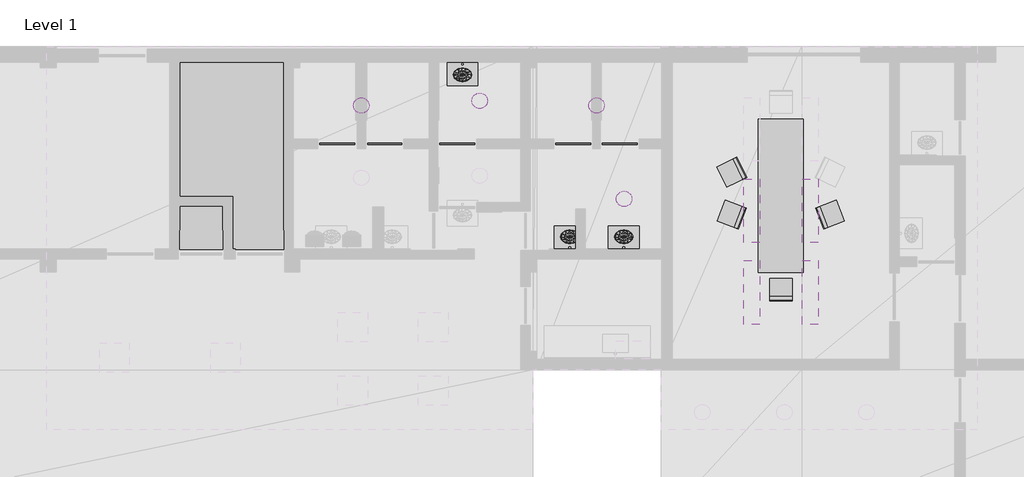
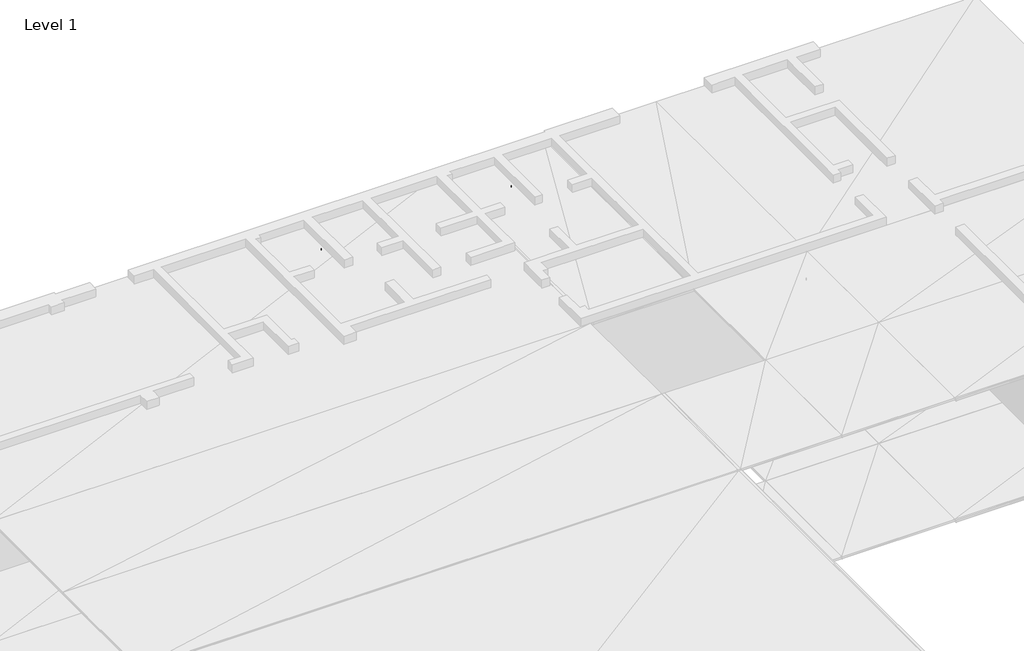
# One storey, part 13 of 14: 23 proxies.
"""IFC4 building model written with IfcOpenShell, lengths in millimetres."""

from ifc_helpers import new_model, si_unit, frame, origin, origin_with_axes, place, context, project, spatial, polyline, outline, extrude, faceted_brep, triangles, element, save

model = new_model("IFC4")

# Units and contexts
model_context = context("Model", 3, world=origin())
ifc_project = project(units=[si_unit("LENGTHUNIT", "METRE", prefix="MILLI")], contexts=[model_context])

# Site, building, storey
site = spatial("IfcSite", under=ifc_project)
building = spatial("IfcBuilding", under=site)
storey = spatial("IfcBuildingStorey", under=building, Name="Level 1", Elevation=0.0)

# Proxies
placement = place(None, origin())
element("IfcBuildingElementProxy", 1, Name="Generic Models", at=placement, inside=storey, context=model_context, shape_type="SweptSolid", body=[
    extrude(outline(polyline([(12247.01786, 20392.499924), (12247.01786, 20427.499771), (12905.017853, 20427.499771), (12905.017853, 20392.499924), (12247.01786, 20392.499924)])), origin_with_axes(), (0.0, 0.0, 1.0), 2099.999905),
])
element("IfcBuildingElementProxy", 2, Name="Generic Models", at=placement, inside=storey, context=model_context, shape_type="SweptSolid", body=[
    extrude(outline(polyline([(15095.017433, 20427.499771), (15095.017433, 20392.499924), (14437.017441, 20392.499924), (14437.017441, 20427.499771), (15095.017433, 20427.499771)])), origin_with_axes(), (0.0, 0.0, 1.0), 2099.999905),
])
element("IfcBuildingElementProxy", 3, Name="Generic Models", at=placement, inside=storey, context=model_context, shape_type="SweptSolid", body=[
    extrude(outline(polyline([(15317.017555, 20392.499924), (15317.017555, 20427.499771), (15975.017548, 20427.499771), (15975.017548, 20392.499924), (15317.017555, 20392.499924)])), origin_with_axes(), (0.0, 0.0, 1.0), 2099.999905),
])
element("IfcBuildingElementProxy", 4, Name="Generic Models", at=placement, inside=storey, context=model_context, shape_type="SweptSolid", body=[
    extrude(outline(polyline([(10645.017624, 20427.499771), (10645.017624, 20392.499924), (9987.017632, 20392.499924), (9987.017632, 20427.499771), (10645.017624, 20427.499771)])), origin_with_axes(), (0.0, 0.0, 1.0), 2099.999905),
])
element("IfcBuildingElementProxy", 5, Name="Generic Models", at=placement, inside=storey, context=model_context, shape_type="SweptSolid", body=[
    extrude(outline(polyline([(10886.417389, 20392.499924), (10886.417389, 20427.499771), (11525.617599, 20427.499771), (11525.617599, 20392.499924), (10886.417389, 20392.499924)])), origin_with_axes(), (0.0, 0.0, 1.0), 2099.999905),
])
element("IfcBuildingElementProxy", 6, Name="Generic Models", at=placement, inside=storey, context=model_context, shape_type="SweptSolid", body=[
    extrude(outline(polyline([(18286.018372, 18545.000076), (17986.019135, 18545.000076), (17986.019135, 19745.000839), (18286.018372, 19745.000839), (18286.018372, 18545.000076)])), frame((0.0, 0.0, 2910.000086), z_axis=(0.0, 0.0, 1.0), x_axis=(1.0, 0.0, 0.0)), (0.0, 0.0, 1.0), 39.999962),
])
element("IfcBuildingElementProxy", 7, Name="Generic Models", at=placement, inside=storey, context=model_context, shape_type="SweptSolid", body=[
    extrude(outline(polyline([(19387.996674, 18545.000076), (19087.997437, 18545.000076), (19087.997437, 19745.000839), (19387.996674, 19745.000839), (19387.996674, 18545.000076)])), frame((0.0, 0.0, 2910.000086), z_axis=(0.0, 0.0, 1.0), x_axis=(1.0, 0.0, 0.0)), (0.0, 0.0, 1.0), 39.999962),
])
element("IfcBuildingElementProxy", 8, Name="Generic Models", at=placement, inside=storey, context=model_context, shape_type="SweptSolid", body=[
    extrude(outline(polyline([(18286.018372, 17003.99971), (17986.019135, 17003.99971), (17986.019135, 18204.000473), (18286.018372, 18204.000473), (18286.018372, 17003.99971)])), frame((0.0, 0.0, 2910.000086), z_axis=(0.0, 0.0, 1.0), x_axis=(1.0, 0.0, 0.0)), (0.0, 0.0, 1.0), 39.999962),
])
element("IfcBuildingElementProxy", 9, Name="Generic Models", at=placement, inside=storey, context=model_context, shape_type="SweptSolid", body=[
    extrude(outline(polyline([(19387.996674, 17003.99971), (19087.997437, 17003.99971), (19087.997437, 18204.000473), (19387.996674, 18204.000473), (19387.996674, 17003.99971)])), frame((0.0, 0.0, 2910.000086), z_axis=(0.0, 0.0, 1.0), x_axis=(1.0, 0.0, 0.0)), (0.0, 0.0, 1.0), 39.999962),
])
element("IfcBuildingElementProxy", 10, Name="Generic Models", at=placement, inside=storey, context=model_context, shape_type="SweptSolid", body=[
    extrude(outline(polyline([(15862.160683, 19313.60817), (15848.543167, 19288.131714), (15830.217361, 19265.802383), (15807.887077, 19247.47467), (15782.410622, 19233.858109), (15754.766464, 19225.471497), (15726.017952, 19222.640991), (15697.26944, 19225.471497), (15669.625282, 19233.858109), (15644.148827, 19247.47467), (15621.818542, 19265.802383), (15603.492737, 19288.131714), (15589.875221, 19313.60817), (15581.489563, 19341.251373), (15578.658104, 19370.000839), (15581.489563, 19398.750305), (15589.875221, 19426.393509), (15603.492737, 19451.869965), (15621.818542, 19474.199295), (15644.148827, 19492.527008), (15669.625282, 19506.14357), (15697.26944, 19514.530182), (15726.017952, 19517.360687), (15754.766464, 19514.530182), (15782.410622, 19506.14357), (15807.887077, 19492.527008), (15830.217361, 19474.199295), (15848.543167, 19451.869965), (15862.160683, 19426.393509), (15870.546341, 19398.750305), (15873.3778, 19370.000839), (15870.546341, 19341.251373), (15862.160683, 19313.60817)])), frame((0.0, 0.0, 2910.000086), z_axis=(0.0, 0.0, 1.0), x_axis=(1.0, 0.0, 0.0)), (0.0, 0.0, 1.0), 39.999962),
])
element("IfcBuildingElementProxy", 11, Name="Generic Models", at=placement, inside=storey, context=model_context, shape_type="SweptSolid", body=[
    extrude(outline(polyline([(15342.161179, 21078.607559), (15328.543663, 21053.131104), (15310.217857, 21030.801773), (15287.887573, 21012.47406), (15262.411118, 20998.857498), (15234.76696, 20990.470886), (15206.018448, 20987.640381), (15177.269936, 20990.470886), (15149.625778, 20998.857498), (15124.149323, 21012.47406), (15101.819038, 21030.801773), (15083.493233, 21053.131104), (15069.875717, 21078.607559), (15061.490059, 21106.250763), (15058.6586, 21135.000229), (15061.490059, 21163.749695), (15069.875717, 21191.392899), (15083.493233, 21216.869354), (15101.819038, 21239.198685), (15124.149323, 21257.526398), (15149.625778, 21271.14296), (15177.269936, 21279.529572), (15206.018448, 21282.360077), (15234.76696, 21279.529572), (15262.411118, 21271.14296), (15287.887573, 21257.526398), (15310.217857, 21239.198685), (15328.543663, 21216.869354), (15342.161179, 21191.392899), (15350.546837, 21163.749695), (15353.378296, 21135.000229), (15350.546837, 21106.250763), (15342.161179, 21078.607559)])), frame((0.0, 0.0, 2910.000086), z_axis=(0.0, 0.0, 1.0), x_axis=(1.0, 0.0, 0.0)), (0.0, 0.0, 1.0), 39.999962),
])
element("IfcBuildingElementProxy", 12, Name="Generic Models", at=placement, inside=storey, context=model_context, shape_type="SweptSolid", body=[
    extrude(outline(polyline([(13137.160301, 21168.607712), (13123.542786, 21143.131256), (13105.21698, 21120.801926), (13082.886696, 21102.474213), (13057.41024, 21088.857651), (13029.766083, 21080.471039), (13001.01757, 21077.640533), (12972.269058, 21080.471039), (12944.624901, 21088.857651), (12919.148445, 21102.474213), (12896.818161, 21120.801926), (12878.492355, 21143.131256), (12864.87484, 21168.607712), (12856.489182, 21196.250916), (12853.657722, 21225.000381), (12856.489182, 21253.749847), (12864.87484, 21281.393051), (12878.492355, 21306.869507), (12896.818161, 21329.198837), (12919.148445, 21347.52655), (12944.624901, 21361.143112), (12972.269058, 21369.529724), (13001.01757, 21372.360229), (13029.766083, 21369.529724), (13057.41024, 21361.143112), (13082.886696, 21347.52655), (13105.21698, 21329.198837), (13123.542786, 21306.869507), (13137.160301, 21281.393051), (13145.545959, 21253.749847), (13148.377419, 21225.000381), (13145.545959, 21196.250916), (13137.160301, 21168.607712)])), frame((0.0, 0.0, 2910.000086), z_axis=(0.0, 0.0, 1.0), x_axis=(1.0, 0.0, 0.0)), (0.0, 0.0, 1.0), 39.999962),
])
element("IfcBuildingElementProxy", 13, Name="Generic Models", at=placement, inside=storey, context=model_context, shape_type="SweptSolid", body=[
    extrude(outline(polyline([(10902.160645, 21078.607559), (10888.543129, 21053.131104), (10870.217323, 21030.801773), (10847.887039, 21012.47406), (10822.410583, 20998.857498), (10794.766426, 20990.470886), (10766.017914, 20987.640381), (10737.269402, 20990.470886), (10709.625244, 20998.857498), (10684.148788, 21012.47406), (10661.818504, 21030.801773), (10643.492699, 21053.131104), (10629.875183, 21078.607559), (10621.489525, 21106.250763), (10618.658066, 21135.000229), (10621.489525, 21163.749695), (10629.875183, 21191.392899), (10643.492699, 21216.869354), (10661.818504, 21239.198685), (10684.148788, 21257.526398), (10709.625244, 21271.14296), (10737.269402, 21279.529572), (10766.017914, 21282.360077), (10794.766426, 21279.529572), (10822.410583, 21271.14296), (10847.887039, 21257.526398), (10870.217323, 21239.198685), (10888.543129, 21216.869354), (10902.160645, 21191.392899), (10910.546303, 21163.749695), (10913.377762, 21135.000229), (10910.546303, 21106.250763), (10902.160645, 21078.607559)])), frame((0.0, 0.0, 2910.000086), z_axis=(0.0, 0.0, 1.0), x_axis=(1.0, 0.0, 0.0)), (0.0, 0.0, 1.0), 39.999962),
])
element("IfcBuildingElementProxy", 14, Name="Generic Models", at=placement, inside=storey, context=model_context, shape_type="SweptSolid", body=[
    extrude(outline(polyline([(17677.558899, 19271.942139), (17651.416779, 19281.970978), (17661.445618, 19308.113098), (17687.587738, 19298.084259), (17677.558899, 19271.942139)])), frame((0.0, 0.0, 50.000001), z_axis=(0.0, 0.0, 1.0), x_axis=(1.0, 0.0, 0.0)), (0.0, 0.0, 1.0), 389.999997),
    extrude(outline(polyline([(17976.329803, 19157.329559), (17950.187683, 19167.358398), (17960.216522, 19193.500519), (17986.358643, 19183.47168), (17976.329803, 19157.329559)])), frame((0.0, 0.0, 50.000001), z_axis=(0.0, 0.0, 1.0), x_axis=(1.0, 0.0, 0.0)), (0.0, 0.0, 1.0), 389.999997),
    extrude(outline(polyline([(17555.784225, 18954.498291), (17529.642105, 18964.52713), (17539.669037, 18990.66925), (17565.813065, 18980.640411), (17555.784225, 18954.498291)])), frame((0.0, 0.0, 50.000001), z_axis=(0.0, 0.0, 1.0), x_axis=(1.0, 0.0, 0.0)), (0.0, 0.0, 1.0), 389.999997),
    extrude(outline(polyline([(17854.55513, 18839.885712), (17828.411102, 18849.914551), (17838.439941, 18876.056671), (17864.582062, 18866.027832), (17854.55513, 18839.885712)])), frame((0.0, 0.0, 50.000001), z_axis=(0.0, 0.0, 1.0), x_axis=(1.0, 0.0, 0.0)), (0.0, 0.0, 1.0), 389.999997),
    extrude(outline(polyline([(17860.179901, 18809.88121), (17804.161072, 18831.3694), (17954.589844, 19223.506927), (18010.61058, 19202.01683), (17860.179901, 18809.88121)])), frame((0.0, 0.0, 460.000008), z_axis=(0.0, 0.0, 1.0), x_axis=(1.0, 0.0, 0.0)), (0.0, 0.0, 1.0), 400.000006),
    extrude(outline(polyline([(17878.852844, 18802.717209), (17486.717224, 18953.145981), (17637.145996, 19345.283508), (18029.283524, 19194.854736), (17878.852844, 18802.717209)])), frame((0.0, 0.0, 417.499989), z_axis=(0.0, 0.0, 1.0), x_axis=(1.0, 0.0, 0.0)), (0.0, 0.0, 1.0), 55.000007),
])
element("IfcBuildingElementProxy", 15, Name="Generic Models", at=placement, inside=storey, context=model_context, shape_type="SweptSolid", body=[
    extrude(outline(polyline([(17558.767319, 19954.189301), (17533.540726, 19942.037582), (17521.389008, 19967.264175), (17546.615601, 19979.413986), (17558.767319, 19954.189301)])), frame((0.0, 0.0, 50.000001), z_axis=(0.0, 0.0, 1.0), x_axis=(1.0, 0.0, 0.0)), (0.0, 0.0, 1.0), 389.999997),
    extrude(outline(polyline([(17847.064972, 20093.053818), (17821.840286, 20080.904007), (17809.688568, 20106.128693), (17834.915161, 20118.280411), (17847.064972, 20093.053818)])), frame((0.0, 0.0, 50.000001), z_axis=(0.0, 0.0, 1.0), x_axis=(1.0, 0.0, 0.0)), (0.0, 0.0, 1.0), 389.999997),
    extrude(outline(polyline([(17706.310272, 19647.871017), (17681.085587, 19635.719299), (17668.933868, 19660.945892), (17694.160461, 19673.09761), (17706.310272, 19647.871017)])), frame((0.0, 0.0, 50.000001), z_axis=(0.0, 0.0, 1.0), x_axis=(1.0, 0.0, 0.0)), (0.0, 0.0, 1.0), 389.999997),
    extrude(outline(polyline([(17994.609833, 19786.735535), (17969.38324, 19774.585724), (17957.233429, 19799.812317), (17982.460022, 19811.962128), (17994.609833, 19786.735535)])), frame((0.0, 0.0, 50.000001), z_axis=(0.0, 0.0, 1.0), x_axis=(1.0, 0.0, 0.0)), (0.0, 0.0, 1.0), 389.999997),
    extrude(outline(polyline([(18020.307541, 19770.254135), (17966.251373, 19744.216919), (17783.99086, 20122.610092), (17838.047028, 20148.647308), (18020.307541, 19770.254135)])), frame((0.0, 0.0, 460.000008), z_axis=(0.0, 0.0, 1.0), x_axis=(1.0, 0.0, 0.0)), (0.0, 0.0, 1.0), 400.000006),
    extrude(outline(polyline([(18038.326263, 19778.934479), (17659.934998, 19596.673965), (17477.672577, 19975.065231), (17856.06575, 20157.327652), (18038.326263, 19778.934479)])), frame((0.0, 0.0, 417.499989), z_axis=(0.0, 0.0, 1.0), x_axis=(1.0, 0.0, 0.0)), (0.0, 0.0, 1.0), 55.000007),
])
element("IfcBuildingElementProxy", 16, Name="Generic Models", at=placement, inside=storey, context=model_context, shape_type="SweptSolid", body=[
    extrude(outline(polyline([(19806.188583, 18980.644226), (19832.330704, 18990.673065), (19842.359543, 18964.530945), (19816.217422, 18954.502106), (19806.188583, 18980.644226)])), frame((0.0, 0.0, 50.000001), z_axis=(0.0, 0.0, 1.0), x_axis=(1.0, 0.0, 0.0)), (0.0, 0.0, 1.0), 389.999997),
    extrude(outline(polyline([(19507.419586, 18866.027832), (19533.561707, 18876.056671), (19543.590546, 18849.914551), (19517.448425, 18839.885712), (19507.419586, 18866.027832)])), frame((0.0, 0.0, 50.000001), z_axis=(0.0, 0.0, 1.0), x_axis=(1.0, 0.0, 0.0)), (0.0, 0.0, 1.0), 389.999997),
    extrude(outline(polyline([(19684.408188, 19298.086166), (19710.552216, 19308.115005), (19720.581055, 19281.972885), (19694.438934, 19271.944046), (19684.408188, 19298.086166)])), frame((0.0, 0.0, 50.000001), z_axis=(0.0, 0.0, 1.0), x_axis=(1.0, 0.0, 0.0)), (0.0, 0.0, 1.0), 389.999997),
    extrude(outline(polyline([(19385.639191, 19183.469772), (19411.781311, 19193.498611), (19421.81015, 19167.356491), (19395.66803, 19157.327652), (19385.639191, 19183.469772)])), frame((0.0, 0.0, 50.000001), z_axis=(0.0, 0.0, 1.0), x_axis=(1.0, 0.0, 0.0)), (0.0, 0.0, 1.0), 389.999997),
    extrude(outline(polyline([(19361.38916, 19202.013016), (19417.40799, 19223.50502), (19567.842484, 18831.3694), (19511.823654, 18809.879303), (19361.38916, 19202.013016)])), frame((0.0, 0.0, 460.000008), z_axis=(0.0, 0.0, 1.0), x_axis=(1.0, 0.0, 0.0)), (0.0, 0.0, 1.0), 400.000006),
    extrude(outline(polyline([(19342.716217, 19194.850922), (19734.84993, 19345.283508), (19885.284424, 18953.149796), (19493.148804, 18802.715302), (19342.716217, 19194.850922)])), frame((0.0, 0.0, 417.499989), z_axis=(0.0, 0.0, 1.0), x_axis=(1.0, 0.0, 0.0)), (0.0, 0.0, 1.0), 55.000007),
])
element("IfcBuildingElementProxy", 17, Name="Generic Models", at=placement, inside=storey, context=model_context, shape_type="SweptSolid", body=[
    extrude(outline(polyline([(18841.999054, 17801.000595), (18841.999054, 17829.00238), (18869.998932, 17829.00238), (18869.998932, 17801.002502), (18841.999054, 17801.000595)])), frame((0.0, 0.0, 50.000001), z_axis=(0.0, 0.0, 1.0), x_axis=(1.0, 0.0, 0.0)), (0.0, 0.0, 1.0), 389.999997),
    extrude(outline(polyline([(18842.000961, 17481.0009), (18842.000961, 17509.000778), (18870.000839, 17509.002686), (18870.000839, 17481.0009), (18842.000961, 17481.0009)])), frame((0.0, 0.0, 50.000001), z_axis=(0.0, 0.0, 1.0), x_axis=(1.0, 0.0, 0.0)), (0.0, 0.0, 1.0), 389.999997),
    extrude(outline(polyline([(18501.998901, 17800.998688), (18501.998901, 17828.998566), (18529.998779, 17828.998566), (18529.998779, 17800.998688), (18501.998901, 17800.998688)])), frame((0.0, 0.0, 50.000001), z_axis=(0.0, 0.0, 1.0), x_axis=(1.0, 0.0, 0.0)), (0.0, 0.0, 1.0), 389.999997),
    extrude(outline(polyline([(18502.000809, 17480.998993), (18502.000809, 17508.998871), (18530.000687, 17508.998871), (18530.002594, 17480.998993), (18502.000809, 17480.998993)])), frame((0.0, 0.0, 50.000001), z_axis=(0.0, 0.0, 1.0), x_axis=(1.0, 0.0, 0.0)), (0.0, 0.0, 1.0), 389.999997),
    extrude(outline(polyline([(18476.00174, 17464.998245), (18476.00174, 17524.997711), (18896.001816, 17525.001526), (18896.001816, 17465.00206), (18476.00174, 17464.998245)])), frame((0.0, 0.0, 460.000008), z_axis=(0.0, 0.0, 1.0), x_axis=(1.0, 0.0, 0.0)), (0.0, 0.0, 1.0), 400.000006),
    extrude(outline(polyline([(18476.00174, 17444.997787), (18475.997925, 17864.997864), (18895.998001, 17865.001678), (18896.001816, 17445.001602), (18476.00174, 17444.997787)])), frame((0.0, 0.0, 417.499989), z_axis=(0.0, 0.0, 1.0), x_axis=(1.0, 0.0, 0.0)), (0.0, 0.0, 1.0), 55.000007),
])
element("IfcBuildingElementProxy", 18, Name="Generic Models", at=placement, inside=storey, context=model_context, shape_type="SweptSolid", body=[
    extrude(outline(polyline([(18261.016846, 17979.999542), (18261.016846, 20880.001068), (19111.017227, 20880.001068), (19111.017227, 17979.999542), (18261.016846, 17979.999542)])), frame((0.0, 0.0, 709.999979), z_axis=(0.0, 0.0, 1.0), x_axis=(1.0, 0.0, 0.0)), (0.0, 0.0, 1.0), 40.000021),
])
element("IfcBuildingElementProxy", 19, Name="Generic Models", at=placement, inside=storey, context=model_context, shape_type="SweptSolid", body=[
    extrude(outline(polyline([(19058.517456, 18055.000305), (19013.51738, 18055.000305), (19013.51738, 20805.000305), (19058.517456, 20805.000305), (19058.517456, 18055.000305)])), frame((0.0, 0.0, 639.999986), z_axis=(0.0, 0.0, 1.0), x_axis=(1.0, 0.0, 0.0)), (0.0, 0.0, 1.0), 69.999993),
    extrude(outline(polyline([(18358.516693, 18055.000305), (18313.516617, 18055.000305), (18313.516617, 20805.000305), (18358.516693, 20805.000305), (18358.516693, 18055.000305)])), frame((0.0, 0.0, 639.999986), z_axis=(0.0, 0.0, 1.0), x_axis=(1.0, 0.0, 0.0)), (0.0, 0.0, 1.0), 69.999993),
    extrude(outline(polyline([(18336.017609, 20782.501221), (18336.017609, 20827.501297), (19036.018372, 20827.501297), (19036.018372, 20782.501221), (18336.017609, 20782.501221)])), frame((0.0, 0.0, 639.999986), z_axis=(0.0, 0.0, 1.0), x_axis=(1.0, 0.0, 0.0)), (0.0, 0.0, 1.0), 69.999993),
    extrude(outline(polyline([(18336.017609, 18032.501221), (18336.017609, 18077.501297), (19036.018372, 18077.501297), (19036.018372, 18032.501221), (18336.017609, 18032.501221)])), frame((0.0, 0.0, 639.999986), z_axis=(0.0, 0.0, 1.0), x_axis=(1.0, 0.0, 0.0)), (0.0, 0.0, 1.0), 69.999993),
    extrude(outline(polyline([(19011.016846, 20780.000687), (19011.016846, 20829.999924), (19061.01799, 20829.999924), (19061.01799, 20780.000687), (19011.016846, 20780.000687)])), frame((0.0, 0.0, 50.000001), z_axis=(0.0, 0.0, 1.0), x_axis=(1.0, 0.0, 0.0)), (0.0, 0.0, 1.0), 659.999978),
    extrude(outline(polyline([(19011.016846, 18030.000687), (19011.016846, 18079.999924), (19061.01799, 18079.999924), (19061.01799, 18030.000687), (19011.016846, 18030.000687)])), frame((0.0, 0.0, 50.000001), z_axis=(0.0, 0.0, 1.0), x_axis=(1.0, 0.0, 0.0)), (0.0, 0.0, 1.0), 659.999978),
    extrude(outline(polyline([(18311.01799, 20780.000687), (18311.01799, 20829.999924), (18361.017227, 20829.999924), (18361.017227, 20780.000687), (18311.01799, 20780.000687)])), frame((0.0, 0.0, 50.000001), z_axis=(0.0, 0.0, 1.0), x_axis=(1.0, 0.0, 0.0)), (0.0, 0.0, 1.0), 659.999978),
    extrude(outline(polyline([(18311.01799, 18030.000687), (18311.01799, 18079.999924), (18361.017227, 18079.999924), (18361.017227, 18030.000687), (18311.01799, 18030.000687)])), frame((0.0, 0.0, 50.000001), z_axis=(0.0, 0.0, 1.0), x_axis=(1.0, 0.0, 0.0)), (0.0, 0.0, 1.0), 659.999978),
])
element("IfcBuildingElementProxy", 20, Name="Generic Models", at=placement, inside=storey, context=model_context, shape_type="Brep", body=[
    faceted_brep([(12593.741417, 21750.0, 868.971169), (12581.01368, 21715.000153, 868.971169), (12676.013947, 21715.000153, 875.0), (12533.514023, 21775.621414, 852.500021), (12593.741417, 21819.999695, 852.500021), (12628.513336, 21775.621414, 868.971169), (12511.468887, 21715.000153, 852.500021), (12593.741417, 21680.000305, 868.971169), (12676.013947, 21784.999847, 868.971169), (12723.513603, 21775.621414, 868.971169), (12758.286476, 21750.0, 868.971169), (12771.01326, 21715.000153, 868.971169), (12758.286476, 21680.000305, 868.971169), (12723.513603, 21654.378891, 868.971169), (12676.013947, 21645.000458, 868.971169), (12628.513336, 21654.378891, 868.971169), (12511.468887, 21784.999847, 829.999983), (12581.01368, 21836.244583, 829.999983), (12676.013947, 21836.244583, 852.500021), (12676.013947, 21854.999542, 829.999983), (12486.013412, 21715.000153, 829.999983), (12533.514023, 21654.378891, 852.500021), (12758.286476, 21819.999695, 852.500021), (12818.51387, 21775.621414, 852.500021), (12840.559006, 21715.000153, 852.500021), (12818.51387, 21654.378891, 852.500021), (12758.286476, 21610.00061, 852.500021), (12676.013947, 21593.757629, 852.500021), (12593.741417, 21610.00061, 852.500021), (12533.514023, 21775.621414, 807.500005), (12593.741417, 21819.999695, 807.500005), (12676.013947, 21836.244583, 807.500005), (12771.01326, 21836.244583, 829.999983), (12758.286476, 21819.999695, 807.500005), (12511.468887, 21715.000153, 807.500005), (12511.468887, 21645.000458, 829.999983), (12840.559006, 21784.999847, 829.999983), (12866.013527, 21715.000153, 829.999983), (12840.559006, 21645.000458, 829.999983), (12771.01326, 21593.757629, 829.999983), (12676.013947, 21575.000763, 829.999983), (12581.01368, 21593.757629, 829.999983), (12593.741417, 21750.0, 791.028857), (12628.513336, 21775.621414, 791.028857), (12676.013947, 21784.999847, 791.028857), (12723.513603, 21775.621414, 791.028857), (12818.51387, 21775.621414, 807.500005), (12758.286476, 21750.0, 791.028857), (12581.01368, 21715.000153, 791.028857), (12533.514023, 21654.378891, 807.500005), (12840.559006, 21715.000153, 807.500005), (12818.51387, 21654.378891, 807.500005), (12758.286476, 21610.00061, 807.500005), (12676.013947, 21593.757629, 807.500005), (12593.741417, 21610.00061, 807.500005), (12676.013947, 21715.000153, 785.000026), (12771.01326, 21715.000153, 791.028857), (12593.741417, 21680.000305, 791.028857), (12758.286476, 21680.000305, 791.028857), (12723.513603, 21654.378891, 791.028857), (12676.013947, 21645.000458, 791.028857), (12628.513336, 21654.378891, 791.028857)], [[[0, 1, 2]], [[3, 1, 0]], [[4, 3, 0]], [[4, 0, 5]], [[5, 0, 2]], [[3, 6, 1]], [[6, 7, 1]], [[1, 7, 2]], [[8, 5, 2]], [[9, 8, 2]], [[10, 9, 2]], [[11, 10, 2]], [[12, 11, 2]], [[13, 12, 2]], [[14, 13, 2]], [[15, 14, 2]], [[7, 15, 2]], [[16, 6, 3]], [[17, 16, 3]], [[17, 3, 4]], [[18, 4, 5]], [[19, 17, 4]], [[19, 4, 18]], [[18, 5, 8]], [[16, 20, 6]], [[20, 21, 6]], [[6, 21, 7]], [[21, 15, 7]], [[22, 18, 8]], [[22, 8, 9]], [[23, 22, 9]], [[23, 9, 10]], [[24, 23, 10]], [[24, 10, 11]], [[25, 24, 11]], [[25, 11, 12]], [[26, 25, 12]], [[26, 12, 13]], [[27, 26, 13]], [[27, 13, 14]], [[28, 27, 14]], [[28, 14, 15]], [[21, 28, 15]], [[29, 20, 16]], [[30, 29, 16]], [[30, 16, 17]], [[31, 30, 17]], [[31, 17, 19]], [[32, 19, 18]], [[32, 18, 22]], [[33, 31, 19]], [[33, 19, 32]], [[29, 34, 20]], [[34, 35, 20]], [[20, 35, 21]], [[35, 28, 21]], [[36, 32, 22]], [[36, 22, 23]], [[37, 36, 23]], [[37, 23, 24]], [[38, 37, 24]], [[38, 24, 25]], [[39, 38, 25]], [[39, 25, 26]], [[40, 39, 26]], [[40, 26, 27]], [[41, 40, 27]], [[41, 27, 28]], [[35, 41, 28]], [[42, 34, 29]], [[43, 42, 29]], [[43, 29, 30]], [[44, 43, 30]], [[44, 30, 31]], [[45, 44, 31]], [[45, 31, 33]], [[46, 33, 32]], [[46, 32, 36]], [[47, 45, 33]], [[47, 33, 46]], [[42, 48, 34]], [[48, 49, 34]], [[34, 49, 35]], [[49, 41, 35]], [[50, 46, 36]], [[50, 36, 37]], [[51, 50, 37]], [[51, 37, 38]], [[52, 51, 38]], [[52, 38, 39]], [[53, 52, 39]], [[53, 39, 40]], [[54, 53, 40]], [[54, 40, 41]], [[49, 54, 41]], [[55, 48, 42]], [[55, 42, 43]], [[55, 43, 44]], [[55, 44, 45]], [[55, 45, 47]], [[56, 47, 46]], [[56, 46, 50]], [[55, 47, 56]], [[48, 57, 49]], [[55, 57, 48]], [[57, 54, 49]], [[58, 56, 50]], [[58, 50, 51]], [[59, 58, 51]], [[59, 51, 52]], [[60, 59, 52]], [[60, 52, 53]], [[61, 60, 53]], [[61, 53, 54]], [[57, 61, 54]], [[55, 56, 58]], [[55, 58, 59]], [[55, 59, 60]], [[55, 60, 61]], [[55, 61, 57]]]),
    faceted_brep([(12691.601753, 21929.000854, 1000.0), (12685.013771, 21935.588837, 1000.0), (12676.013947, 21937.999725, 1000.0), (12667.014122, 21935.588837, 1000.0), (12660.425186, 21929.000854, 1000.0), (12658.013344, 21920.000076, 1000.0), (12660.425186, 21911.001205, 1000.0), (12667.014122, 21904.411316, 1000.0), (12676.013947, 21902.000427, 1000.0), (12685.013771, 21904.411316, 1000.0), (12691.601753, 21911.001205, 1000.0), (12694.013596, 21920.000076, 1000.0), (12685.013771, 21935.588837, 819.999993), (12676.013947, 21937.999725, 819.999993), (12658.013344, 21920.000076, 819.999993), (12660.425186, 21911.001205, 819.999993), (12685.013771, 21904.411316, 819.999993), (12691.601753, 21911.001205, 819.999993), (12667.014122, 21935.588837, 819.999993), (12660.425186, 21929.000854, 819.999993), (12667.014122, 21904.411316, 819.999993), (12676.013947, 21902.000427, 819.999993), (12694.013596, 21920.000076, 819.999993), (12691.601753, 21929.000854, 819.999993)], [[[0, 1, 2, 3, 4, 5, 6, 7, 8, 9, 10, 11]], [[12, 13, 2, 1]], [[14, 15, 6, 5]], [[16, 17, 10, 9]], [[18, 19, 4, 3]], [[20, 21, 8, 7]], [[22, 23, 0, 11]], [[13, 18, 3, 2]], [[23, 12, 1, 0]], [[19, 14, 5, 4]], [[15, 20, 7, 6]], [[21, 16, 9, 8]], [[16, 21, 20, 15, 14, 19, 18, 13, 12, 23, 22, 17]], [[17, 22, 11, 10]]]),
    faceted_brep([(12966.013908, 21510.000229, 759.99999), (12966.013908, 21989.999771, 759.99999), (12966.013908, 21989.999771, 839.999974), (12966.013908, 21510.000229, 839.999974), (12386.013985, 21510.000229, 759.99999), (12386.013985, 21510.000229, 839.999974), (12386.013985, 21989.999771, 759.99999), (12386.013985, 21989.999771, 839.999974)], [[[0, 1, 2, 3]], [[4, 0, 3, 5]], [[1, 0, 4, 6]], [[2, 7, 5, 3]], [[1, 6, 7, 2]], [[6, 4, 5, 7]]]),
    faceted_brep([(12926.013947, 21550.001144, 39.999999), (12926.013947, 21950.000763, 39.999999), (12926.013947, 21950.000763, 759.99999), (12926.013947, 21550.001144, 759.99999), (12426.013947, 21550.001144, 39.999999), (12426.013947, 21550.001144, 759.99999), (12426.013947, 21950.000763, 39.999999), (12426.013947, 21950.000763, 759.99999)], [[[0, 1, 2, 3]], [[4, 0, 3, 5]], [[1, 0, 4, 6]], [[2, 7, 5, 3]], [[1, 6, 7, 2]], [[6, 4, 5, 7]]]),
])
element("IfcBuildingElementProxy", 21, Name="Generic Models", at=placement, inside=storey, context=model_context, shape_type="Brep", body=[
    faceted_brep([(14782.272339, 18620.000839, 868.971169), (14795.000076, 18655.000687, 868.971169), (14699.999809, 18655.000687, 875.0), (14842.499733, 18594.377518, 852.500021), (14782.272339, 18549.999237, 852.500021), (14747.50042, 18594.377518, 868.971169), (14864.544868, 18655.000687, 852.500021), (14782.272339, 18690.000534, 868.971169), (14699.999809, 18584.999084, 868.971169), (14652.500153, 18594.377518, 868.971169), (14617.72728, 18620.000839, 868.971169), (14604.999542, 18655.000687, 868.971169), (14617.72728, 18690.000534, 868.971169), (14652.500153, 18715.621948, 868.971169), (14699.999809, 18725.000381, 868.971169), (14747.50042, 18715.621948, 868.971169), (14864.544868, 18584.999084, 829.999983), (14795.000076, 18533.756256, 829.999983), (14699.999809, 18533.756256, 852.500021), (14699.999809, 18514.99939, 829.999983), (14890.000343, 18655.000687, 829.999983), (14842.499733, 18715.621948, 852.500021), (14617.72728, 18549.999237, 852.500021), (14557.499886, 18594.377518, 852.500021), (14535.45475, 18655.000687, 852.500021), (14557.499886, 18715.621948, 852.500021), (14617.72728, 18760.000229, 852.500021), (14699.999809, 18776.24321, 852.500021), (14782.272339, 18760.000229, 852.500021), (14842.499733, 18594.377518, 807.500005), (14782.272339, 18549.999237, 807.500005), (14699.999809, 18533.756256, 807.500005), (14604.999542, 18533.756256, 829.999983), (14617.72728, 18549.999237, 807.500005), (14864.544868, 18655.000687, 807.500005), (14864.544868, 18725.000381, 829.999983), (14535.45475, 18584.999084, 829.999983), (14510.000229, 18655.000687, 829.999983), (14535.45475, 18725.000381, 829.999983), (14604.999542, 18776.24321, 829.999983), (14699.999809, 18795.000076, 829.999983), (14795.000076, 18776.24321, 829.999983), (14782.272339, 18620.000839, 791.028857), (14747.50042, 18594.377518, 791.028857), (14699.999809, 18584.999084, 791.028857), (14652.500153, 18594.377518, 791.028857), (14557.499886, 18594.377518, 807.500005), (14617.72728, 18620.000839, 791.028857), (14795.000076, 18655.000687, 791.028857), (14842.499733, 18715.621948, 807.500005), (14535.45475, 18655.000687, 807.500005), (14557.499886, 18715.621948, 807.500005), (14617.72728, 18760.000229, 807.500005), (14699.999809, 18776.24321, 807.500005), (14782.272339, 18760.000229, 807.500005), (14699.999809, 18655.000687, 785.000026), (14604.999542, 18655.000687, 791.028857), (14782.272339, 18690.000534, 791.028857), (14617.72728, 18690.000534, 791.028857), (14652.500153, 18715.621948, 791.028857), (14699.999809, 18725.000381, 791.028857), (14747.50042, 18715.621948, 791.028857)], [[[0, 1, 2]], [[3, 1, 0]], [[4, 3, 0]], [[4, 0, 5]], [[5, 0, 2]], [[3, 6, 1]], [[6, 7, 1]], [[1, 7, 2]], [[8, 5, 2]], [[9, 8, 2]], [[10, 9, 2]], [[11, 10, 2]], [[12, 11, 2]], [[13, 12, 2]], [[14, 13, 2]], [[15, 14, 2]], [[7, 15, 2]], [[16, 6, 3]], [[17, 16, 3]], [[17, 3, 4]], [[18, 4, 5]], [[19, 17, 4]], [[19, 4, 18]], [[18, 5, 8]], [[16, 20, 6]], [[20, 21, 6]], [[6, 21, 7]], [[21, 15, 7]], [[22, 18, 8]], [[22, 8, 9]], [[23, 22, 9]], [[23, 9, 10]], [[24, 23, 10]], [[24, 10, 11]], [[25, 24, 11]], [[25, 11, 12]], [[26, 25, 12]], [[26, 12, 13]], [[27, 26, 13]], [[27, 13, 14]], [[28, 27, 14]], [[28, 14, 15]], [[21, 28, 15]], [[29, 20, 16]], [[30, 29, 16]], [[30, 16, 17]], [[31, 30, 17]], [[31, 17, 19]], [[32, 19, 18]], [[32, 18, 22]], [[33, 31, 19]], [[33, 19, 32]], [[29, 34, 20]], [[34, 35, 20]], [[20, 35, 21]], [[35, 28, 21]], [[36, 32, 22]], [[36, 22, 23]], [[37, 36, 23]], [[37, 23, 24]], [[38, 37, 24]], [[38, 24, 25]], [[39, 38, 25]], [[39, 25, 26]], [[40, 39, 26]], [[40, 26, 27]], [[41, 40, 27]], [[41, 27, 28]], [[35, 41, 28]], [[42, 34, 29]], [[43, 42, 29]], [[43, 29, 30]], [[44, 43, 30]], [[44, 30, 31]], [[45, 44, 31]], [[45, 31, 33]], [[46, 33, 32]], [[46, 32, 36]], [[47, 45, 33]], [[47, 33, 46]], [[42, 48, 34]], [[48, 49, 34]], [[34, 49, 35]], [[49, 41, 35]], [[50, 46, 36]], [[50, 36, 37]], [[51, 50, 37]], [[51, 37, 38]], [[52, 51, 38]], [[52, 38, 39]], [[53, 52, 39]], [[53, 39, 40]], [[54, 53, 40]], [[54, 40, 41]], [[49, 54, 41]], [[55, 48, 42]], [[55, 42, 43]], [[55, 43, 44]], [[55, 44, 45]], [[55, 45, 47]], [[56, 47, 46]], [[56, 46, 50]], [[55, 47, 56]], [[48, 57, 49]], [[55, 57, 48]], [[57, 54, 49]], [[58, 56, 50]], [[58, 50, 51]], [[59, 58, 51]], [[59, 51, 52]], [[60, 59, 52]], [[60, 52, 53]], [[61, 60, 53]], [[61, 53, 54]], [[57, 61, 54]], [[55, 56, 58]], [[55, 58, 59]], [[55, 59, 60]], [[55, 60, 61]], [[55, 61, 57]]]),
    faceted_brep([(14715.58857, 18458.999634, 1000.0), (14708.999634, 18465.587616, 1000.0), (14699.999809, 18468.000412, 1000.0), (14690.999985, 18465.587616, 1000.0), (14684.412003, 18458.999634, 1000.0), (14682.00016, 18450.000763, 1000.0), (14684.412003, 18440.999985, 1000.0), (14690.999985, 18434.412003, 1000.0), (14699.999809, 18431.999207, 1000.0), (14708.999634, 18434.412003, 1000.0), (14715.58857, 18440.999985, 1000.0), (14718.000412, 18450.000763, 1000.0), (14708.999634, 18465.587616, 819.999993), (14699.999809, 18468.000412, 819.999993), (14682.00016, 18450.000763, 819.999993), (14684.412003, 18440.999985, 819.999993), (14708.999634, 18434.412003, 819.999993), (14715.58857, 18440.999985, 819.999993), (14690.999985, 18465.587616, 819.999993), (14684.412003, 18458.999634, 819.999993), (14690.999985, 18434.412003, 819.999993), (14699.999809, 18431.999207, 819.999993), (14718.000412, 18450.000763, 819.999993), (14715.58857, 18458.999634, 819.999993)], [[[0, 1, 2, 3, 4, 5, 6, 7, 8, 9, 10, 11]], [[12, 13, 2, 1]], [[14, 15, 6, 5]], [[16, 17, 10, 9]], [[18, 19, 4, 3]], [[20, 21, 8, 7]], [[22, 23, 0, 11]], [[13, 18, 3, 2]], [[23, 12, 1, 0]], [[19, 14, 5, 4]], [[15, 20, 7, 6]], [[21, 16, 9, 8]], [[16, 21, 20, 15, 14, 19, 18, 13, 12, 23, 22, 17]], [[17, 22, 11, 10]]]),
    faceted_brep([(14409.999847, 18860.00061, 759.99999), (14409.999847, 18379.999161, 759.99999), (14409.999847, 18379.999161, 839.999974), (14409.999847, 18860.00061, 839.999974), (14989.999771, 18860.00061, 759.99999), (14989.999771, 18860.00061, 839.999974), (14989.999771, 18379.999161, 759.99999), (14989.999771, 18379.999161, 839.999974)], [[[0, 1, 2, 3]], [[4, 0, 3, 5]], [[1, 0, 4, 6]], [[2, 7, 5, 3]], [[1, 6, 7, 2]], [[6, 4, 5, 7]]]),
    faceted_brep([(14449.999809, 18819.999695, 39.999999), (14449.999809, 18420.000076, 39.999999), (14449.999809, 18420.000076, 759.99999), (14449.999809, 18819.999695, 759.99999), (14949.999809, 18819.999695, 39.999999), (14949.999809, 18819.999695, 759.99999), (14949.999809, 18420.000076, 39.999999), (14949.999809, 18420.000076, 759.99999)], [[[0, 1, 2, 3]], [[4, 0, 3, 5]], [[1, 0, 4, 6]], [[2, 7, 5, 3]], [[1, 6, 7, 2]], [[6, 4, 5, 7]]]),
])
element("IfcBuildingElementProxy", 22, Name="Generic Models", at=placement, inside=storey, context=model_context, shape_type="Brep", body=[
    faceted_brep([(15802.272797, 18620.000839, 868.971169), (15814.99958, 18655.000687, 868.971169), (15720.000267, 18655.000687, 875.0), (15862.500191, 18594.377518, 852.500021), (15802.272797, 18549.999237, 852.500021), (15767.499924, 18594.377518, 868.971169), (15884.544373, 18655.000687, 852.500021), (15802.272797, 18690.000534, 868.971169), (15720.000267, 18584.999084, 868.971169), (15672.499657, 18594.377518, 868.971169), (15637.727737, 18620.000839, 868.971169), (15625.0, 18655.000687, 868.971169), (15637.727737, 18690.000534, 868.971169), (15672.499657, 18715.621948, 868.971169), (15720.000267, 18725.000381, 868.971169), (15767.499924, 18715.621948, 868.971169), (15884.544373, 18584.999084, 829.999983), (15814.99958, 18533.756256, 829.999983), (15720.000267, 18533.756256, 852.500021), (15720.000267, 18514.99939, 829.999983), (15909.999847, 18655.000687, 829.999983), (15862.500191, 18715.621948, 852.500021), (15637.727737, 18549.999237, 852.500021), (15577.500343, 18594.377518, 852.500021), (15555.455208, 18655.000687, 852.500021), (15577.500343, 18715.621948, 852.500021), (15637.727737, 18760.000229, 852.500021), (15720.000267, 18776.24321, 852.500021), (15802.272797, 18760.000229, 852.500021), (15862.500191, 18594.377518, 807.500005), (15802.272797, 18549.999237, 807.500005), (15720.000267, 18533.756256, 807.500005), (15625.0, 18533.756256, 829.999983), (15637.727737, 18549.999237, 807.500005), (15884.544373, 18655.000687, 807.500005), (15884.544373, 18725.000381, 829.999983), (15555.455208, 18584.999084, 829.999983), (15529.999733, 18655.000687, 829.999983), (15555.455208, 18725.000381, 829.999983), (15625.0, 18776.24321, 829.999983), (15720.000267, 18795.000076, 829.999983), (15814.99958, 18776.24321, 829.999983), (15802.272797, 18620.000839, 791.028857), (15767.499924, 18594.377518, 791.028857), (15720.000267, 18584.999084, 791.028857), (15672.499657, 18594.377518, 791.028857), (15577.500343, 18594.377518, 807.500005), (15637.727737, 18620.000839, 791.028857), (15814.99958, 18655.000687, 791.028857), (15862.500191, 18715.621948, 807.500005), (15555.455208, 18655.000687, 807.500005), (15577.500343, 18715.621948, 807.500005), (15637.727737, 18760.000229, 807.500005), (15720.000267, 18776.24321, 807.500005), (15802.272797, 18760.000229, 807.500005), (15720.000267, 18655.000687, 785.000026), (15625.0, 18655.000687, 791.028857), (15802.272797, 18690.000534, 791.028857), (15637.727737, 18690.000534, 791.028857), (15672.499657, 18715.621948, 791.028857), (15720.000267, 18725.000381, 791.028857), (15767.499924, 18715.621948, 791.028857)], [[[0, 1, 2]], [[3, 1, 0]], [[4, 3, 0]], [[4, 0, 5]], [[5, 0, 2]], [[3, 6, 1]], [[6, 7, 1]], [[1, 7, 2]], [[8, 5, 2]], [[9, 8, 2]], [[10, 9, 2]], [[11, 10, 2]], [[12, 11, 2]], [[13, 12, 2]], [[14, 13, 2]], [[15, 14, 2]], [[7, 15, 2]], [[16, 6, 3]], [[17, 16, 3]], [[17, 3, 4]], [[18, 4, 5]], [[19, 17, 4]], [[19, 4, 18]], [[18, 5, 8]], [[16, 20, 6]], [[20, 21, 6]], [[6, 21, 7]], [[21, 15, 7]], [[22, 18, 8]], [[22, 8, 9]], [[23, 22, 9]], [[23, 9, 10]], [[24, 23, 10]], [[24, 10, 11]], [[25, 24, 11]], [[25, 11, 12]], [[26, 25, 12]], [[26, 12, 13]], [[27, 26, 13]], [[27, 13, 14]], [[28, 27, 14]], [[28, 14, 15]], [[21, 28, 15]], [[29, 20, 16]], [[30, 29, 16]], [[30, 16, 17]], [[31, 30, 17]], [[31, 17, 19]], [[32, 19, 18]], [[32, 18, 22]], [[33, 31, 19]], [[33, 19, 32]], [[29, 34, 20]], [[34, 35, 20]], [[20, 35, 21]], [[35, 28, 21]], [[36, 32, 22]], [[36, 22, 23]], [[37, 36, 23]], [[37, 23, 24]], [[38, 37, 24]], [[38, 24, 25]], [[39, 38, 25]], [[39, 25, 26]], [[40, 39, 26]], [[40, 26, 27]], [[41, 40, 27]], [[41, 27, 28]], [[35, 41, 28]], [[42, 34, 29]], [[43, 42, 29]], [[43, 29, 30]], [[44, 43, 30]], [[44, 30, 31]], [[45, 44, 31]], [[45, 31, 33]], [[46, 33, 32]], [[46, 32, 36]], [[47, 45, 33]], [[47, 33, 46]], [[42, 48, 34]], [[48, 49, 34]], [[34, 49, 35]], [[49, 41, 35]], [[50, 46, 36]], [[50, 36, 37]], [[51, 50, 37]], [[51, 37, 38]], [[52, 51, 38]], [[52, 38, 39]], [[53, 52, 39]], [[53, 39, 40]], [[54, 53, 40]], [[54, 40, 41]], [[49, 54, 41]], [[55, 48, 42]], [[55, 42, 43]], [[55, 43, 44]], [[55, 44, 45]], [[55, 45, 47]], [[56, 47, 46]], [[56, 46, 50]], [[55, 47, 56]], [[48, 57, 49]], [[55, 57, 48]], [[57, 54, 49]], [[58, 56, 50]], [[58, 50, 51]], [[59, 58, 51]], [[59, 51, 52]], [[60, 59, 52]], [[60, 52, 53]], [[61, 60, 53]], [[61, 53, 54]], [[57, 61, 54]], [[55, 56, 58]], [[55, 58, 59]], [[55, 59, 60]], [[55, 60, 61]], [[55, 61, 57]]]),
    faceted_brep([(15735.588074, 18458.999634, 1000.0), (15729.000092, 18465.587616, 1000.0), (15720.000267, 18468.000412, 1000.0), (15711.000443, 18465.587616, 1000.0), (15704.411507, 18458.999634, 1000.0), (15701.999664, 18450.000763, 1000.0), (15704.411507, 18440.999985, 1000.0), (15711.000443, 18434.412003, 1000.0), (15720.000267, 18431.999207, 1000.0), (15729.000092, 18434.412003, 1000.0), (15735.588074, 18440.999985, 1000.0), (15737.999916, 18450.000763, 1000.0), (15729.000092, 18465.587616, 819.999993), (15720.000267, 18468.000412, 819.999993), (15701.999664, 18450.000763, 819.999993), (15704.411507, 18440.999985, 819.999993), (15729.000092, 18434.412003, 819.999993), (15735.588074, 18440.999985, 819.999993), (15711.000443, 18465.587616, 819.999993), (15704.411507, 18458.999634, 819.999993), (15711.000443, 18434.412003, 819.999993), (15720.000267, 18431.999207, 819.999993), (15737.999916, 18450.000763, 819.999993), (15735.588074, 18458.999634, 819.999993)], [[[0, 1, 2, 3, 4, 5, 6, 7, 8, 9, 10, 11]], [[12, 13, 2, 1]], [[14, 15, 6, 5]], [[16, 17, 10, 9]], [[18, 19, 4, 3]], [[20, 21, 8, 7]], [[22, 23, 0, 11]], [[13, 18, 3, 2]], [[23, 12, 1, 0]], [[19, 14, 5, 4]], [[15, 20, 7, 6]], [[21, 16, 9, 8]], [[16, 21, 20, 15, 14, 19, 18, 13, 12, 23, 22, 17]], [[17, 22, 11, 10]]]),
    faceted_brep([(15430.000305, 18860.00061, 759.99999), (15430.000305, 18379.999161, 759.99999), (15430.000305, 18379.999161, 839.999974), (15430.000305, 18860.00061, 839.999974), (16010.000229, 18860.00061, 759.99999), (16010.000229, 18860.00061, 839.999974), (16010.000229, 18379.999161, 759.99999), (16010.000229, 18379.999161, 839.999974)], [[[0, 1, 2, 3]], [[4, 0, 3, 5]], [[1, 0, 4, 6]], [[2, 7, 5, 3]], [[1, 6, 7, 2]], [[6, 4, 5, 7]]]),
    faceted_brep([(15470.000267, 18819.999695, 39.999999), (15470.000267, 18420.000076, 39.999999), (15470.000267, 18420.000076, 759.99999), (15470.000267, 18819.999695, 759.99999), (15970.000267, 18819.999695, 39.999999), (15970.000267, 18819.999695, 759.99999), (15970.000267, 18420.000076, 39.999999), (15970.000267, 18420.000076, 759.99999)], [[[0, 1, 2, 3]], [[4, 0, 3, 5]], [[1, 0, 4, 6]], [[2, 7, 5, 3]], [[1, 6, 7, 2]], [[6, 4, 5, 7]]]),
])
element("IfcBuildingElementProxy", 23, Name="Generic Models", at=placement, inside=storey, context=model_context, shape_type="Tessellation", body=[
    triangles([(8336.0173416, 18420.0000824, 1.0), (8156.0172821, 19240.0000305, 1.0), (7336.0179153, 18420.0000824, 1.0), (7336.0179153, 19420.0006714, 1.0), (9306.0174362, 21949.9997314, 1.0), (9306.0174362, 20198.6670959, 1.0), (7336.0179153, 21949.9997314, 1.0), (7521.9397064, 19420.0006714, 1.0), (8156.0172821, 18420.0000824, 1.0), (7336.0179153, 19240.0000305, 1.0), (9306.0174362, 18420.0000824, 1.0), (8336.0173416, 19420.0006714, 1.0), (8406.01772, 18420.0000824, 1.0)], [[13, 1, 12], [12, 8, 6], [12, 11, 13], [11, 12, 6], [10, 2, 9], [9, 3, 10], [8, 4, 7], [7, 5, 6], [6, 8, 7]], closed=False),
])

save(model, "model.ifc")
